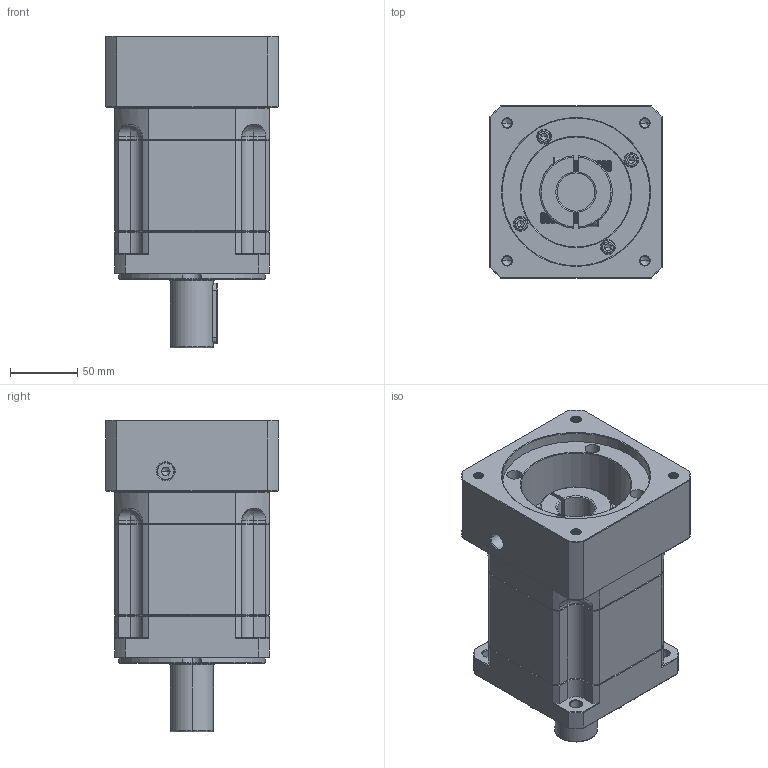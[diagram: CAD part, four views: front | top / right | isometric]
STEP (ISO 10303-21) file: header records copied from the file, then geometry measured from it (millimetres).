
FILE_DESCRIPTION (( 'STEP AP214' ), '1' );
FILE_NAME ('ZB115A-D32-L2-28-110-145-M8.step', '2023-03-02T09:01:46', ( '' ), ( 'Microsoft' ), 'SwSTEP 2.0', 'SolidWorks 2016', '' );
FILE_SCHEMA (( 'AUTOMOTIVE_DESIGN' ));
Length unit declared in the file: millimetre
Products named in the file (1): ZB115A-D32-L2-28-110-145-M8
Bounding box: 128 x 128 x 232 mm (x, y, z)
Volume: 2104135.1 mm3; surface area: 196872.5 mm2
Topology: 6 solids, 6 shells, 2113 faces, 5458 edges, 3439 vertices
Faces by surface type: plane 963, cylinder 439, cone 366, bspline 325, torus 20
Entity records: 113157 total; most frequent: CARTESIAN_POINT 41309, ORIENTED_EDGE 10848, DIRECTION 8897, EDGE_CURVE 5424, VERTEX_POINT 3439, VECTOR 3371, LINE 3371, AXIS2_PLACEMENT_3D 2763
